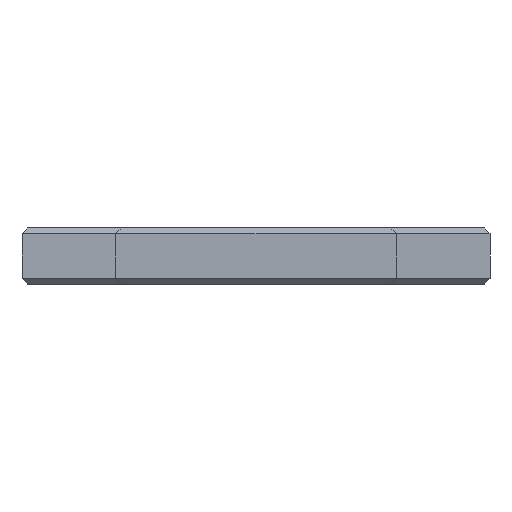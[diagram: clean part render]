
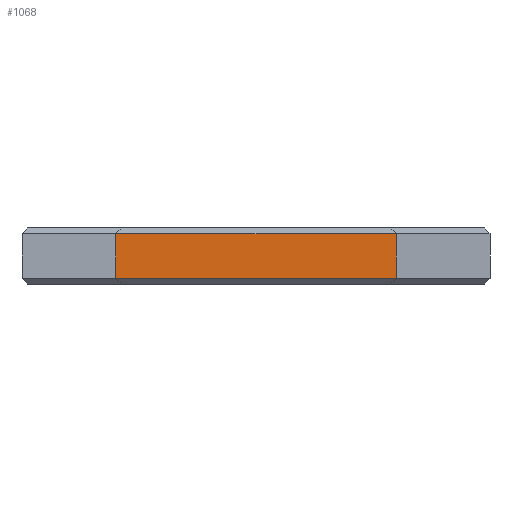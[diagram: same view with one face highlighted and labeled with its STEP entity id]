
A CAD part, front view. The second image highlights one B-rep face of the part: STEP entity #1068.
In plain terms, the highlighted planar face has unit normal (0, -1, 0).
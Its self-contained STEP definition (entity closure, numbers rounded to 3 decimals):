
#69 = CARTESIAN_POINT ( 'NONE',  ( 7.5, -52.5, 0.3 ) ) ;
#90 = CARTESIAN_POINT ( 'NONE',  ( 7.5, -52.5, -42.72 ) ) ;
#176 = LINE ( 'NONE', #90, #1056 ) ;
#178 = CARTESIAN_POINT ( 'NONE',  ( 7.5, -52.5, 2.7 ) ) ;
#183 = DIRECTION ( 'NONE',  ( 0., 0., 1. ) ) ;
#194 = ORIENTED_EDGE ( 'NONE', *, *, #447, .F. ) ;
#289 = CARTESIAN_POINT ( 'NONE',  ( 7.5, -52.5, 2.7 ) ) ;
#339 = VERTEX_POINT ( 'NONE', #1131 ) ;
#389 = CARTESIAN_POINT ( 'NONE',  ( -7.5, -52.5, -42.72 ) ) ;
#422 = AXIS2_PLACEMENT_3D ( 'NONE', #967, #647, #1077 ) ;
#423 = FACE_OUTER_BOUND ( 'NONE', #433, .T. ) ;
#433 = EDGE_LOOP ( 'NONE', ( #1134, #1228, #194, #596 ) ) ;
#442 = VECTOR ( 'NONE', #183, 1000. ) ;
#447 = EDGE_CURVE ( 'NONE', #1158, #339, #1342, .T. ) ;
#524 = DIRECTION ( 'NONE',  ( -1., 0., 0. ) ) ;
#596 = ORIENTED_EDGE ( 'NONE', *, *, #828, .T. ) ;
#603 = LINE ( 'NONE', #1338, #683 ) ;
#624 = LINE ( 'NONE', #178, #974 ) ;
#647 = DIRECTION ( 'NONE',  ( 0., -1., 0. ) ) ;
#683 = VECTOR ( 'NONE', #1240, 1000. ) ;
#822 = EDGE_CURVE ( 'NONE', #1003, #832, #176, .T. ) ;
#828 = EDGE_CURVE ( 'NONE', #1158, #1003, #603, .T. ) ;
#832 = VERTEX_POINT ( 'NONE', #289 ) ;
#848 = PLANE ( 'NONE',  #422 ) ;
#967 = CARTESIAN_POINT ( 'NONE',  ( 7.5, -52.5, -42.72 ) ) ;
#974 = VECTOR ( 'NONE', #524, 1000. ) ;
#978 = CARTESIAN_POINT ( 'NONE',  ( -7.5, -52.5, 0.3 ) ) ;
#986 = EDGE_CURVE ( 'NONE', #832, #339, #624, .T. ) ;
#1003 = VERTEX_POINT ( 'NONE', #69 ) ;
#1020 = DIRECTION ( 'NONE',  ( 0., 0., 1. ) ) ;
#1056 = VECTOR ( 'NONE', #1020, 1000. ) ;
#1068 = ADVANCED_FACE ( 'NONE', ( #423 ), #848, .T. ) ;
#1077 = DIRECTION ( 'NONE',  ( 0., 0., -1. ) ) ;
#1131 = CARTESIAN_POINT ( 'NONE',  ( -7.5, -52.5, 2.7 ) ) ;
#1134 = ORIENTED_EDGE ( 'NONE', *, *, #822, .T. ) ;
#1158 = VERTEX_POINT ( 'NONE', #978 ) ;
#1228 = ORIENTED_EDGE ( 'NONE', *, *, #986, .T. ) ;
#1240 = DIRECTION ( 'NONE',  ( 1., 0., 0. ) ) ;
#1338 = CARTESIAN_POINT ( 'NONE',  ( 7.5, -52.5, 0.3 ) ) ;
#1342 = LINE ( 'NONE', #389, #442 ) ;
